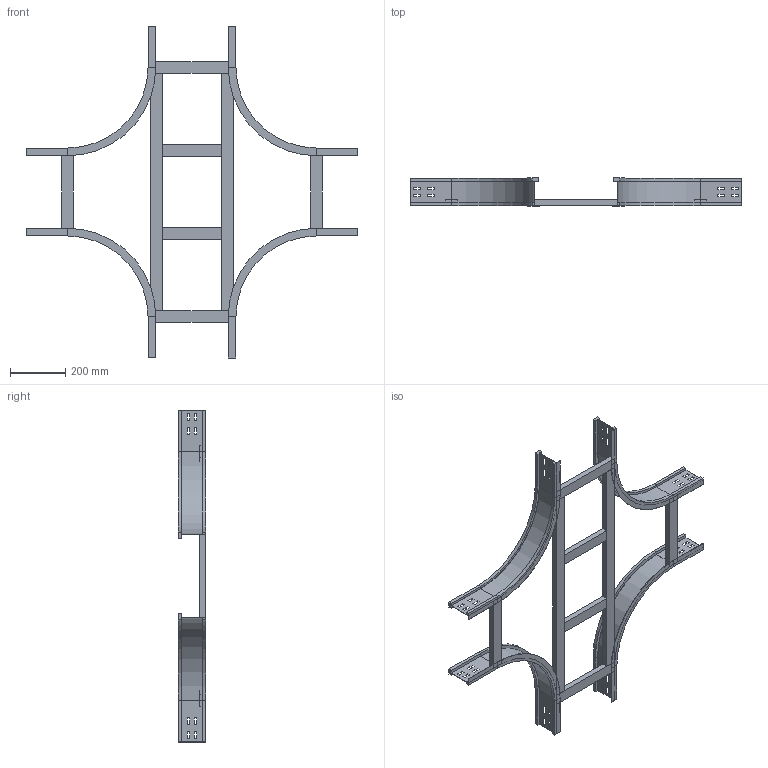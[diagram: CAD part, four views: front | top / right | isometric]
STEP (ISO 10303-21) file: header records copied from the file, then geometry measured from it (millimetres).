
FILE_DESCRIPTION (( 'STEP AP214' ), '1' );
FILE_NAME ('17S3D300.step', '2025-02-21T16:15:54', ( '' ), ( '' ), 'SwSTEP 2.0', 'SolidWorks 2023', '' );
FILE_SCHEMA (( 'AUTOMOTIVE_DESIGN' ));
Length unit declared in the file: millimetre
Products named in the file (5): TRAVERSINO_300; TRAVERSINO_LONG._R300+300; TRAVERSINO_INTERMEDIO_X_R300+300; 17S3D300; LONGH.INTERNO 90°_H100_R300
Assembly tree (12 placements, depth 2):
  17S3D300
    LONGH.INTERNO 90°_H100_R300  x4
    TRAVERSINO_300  x4
    TRAVERSINO_INTERMEDIO_X_R300+300  x2
    TRAVERSINO_LONG._R300+300  x2
Bounding box: 1200 x 100 x 1200 mm (x, y, z)
Volume: 4332164.2 mm3; surface area: 1329232.2 mm2
Topology: 12 solids, 12 shells, 328 faces, 816 edges, 512 vertices
Faces by surface type: plane 304, cylinder 24
Entity records: 2770 total; most frequent: CARTESIAN_POINT 455, DIRECTION 434, ORIENTED_EDGE 432, EDGE_CURVE 216, LINE 204, VECTOR 204, VERTEX_POINT 136, AXIS2_PLACEMENT_3D 115
